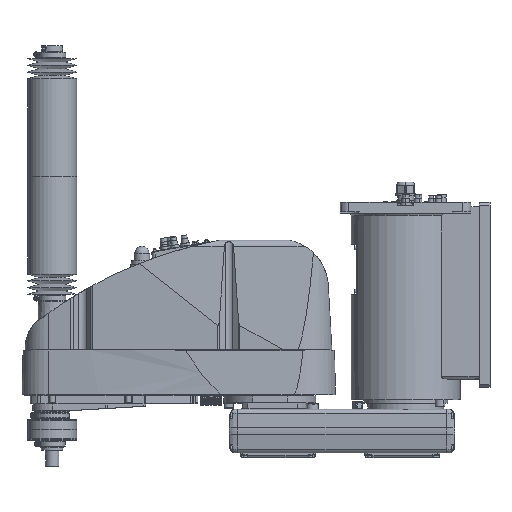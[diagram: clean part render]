
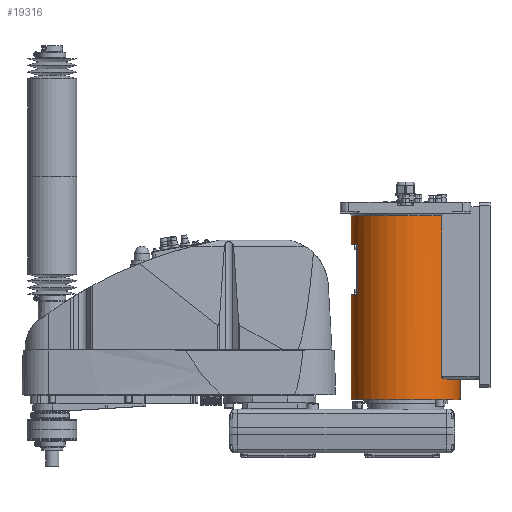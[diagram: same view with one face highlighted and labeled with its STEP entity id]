
A CAD part, top view. The second image highlights one B-rep face of the part: STEP entity #19316.
In plain terms, the highlighted cylindrical face has radius 100 mm (diameter 200 mm), a partial arc.
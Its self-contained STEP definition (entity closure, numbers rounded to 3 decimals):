
#11456 = VERTEX_POINT( '', #33944 );
#11796 = VERTEX_POINT( '', #34318 );
#13084 = EDGE_CURVE( '', #17514, #18980, #35782, .T. );
#13118 = VERTEX_POINT( '', #35818 );
#13156 = VERTEX_POINT( '', #35860 );
#13324 = VERTEX_POINT( '', #36046 );
#13524 = EDGE_CURVE( '', #29128, #17514, #36277, .T. );
#14600 = VERTEX_POINT( '', #37479 );
#17114 = EDGE_CURVE( '', #22464, #26272, #40256, .T. );
#17390 = EDGE_CURVE( '', #18980, #11796, #40568, .T. );
#17514 = VERTEX_POINT( '', #40703 );
#17516 = EDGE_CURVE( '', #26272, #11456, #40705, .T. );
#18448 = EDGE_CURVE( '', #20252, #31028, #41757, .T. );
#18980 = VERTEX_POINT( '', #42343 );
#19290 = VERTEX_POINT( '', #42684 );
#19316 = ADVANCED_FACE( '', ( #42716 ), #42717, .T. );
#20056 = EDGE_CURVE( '', #13118, #25456, #43537, .T. );
#20252 = VERTEX_POINT( '', #43754 );
#20804 = VERTEX_POINT( '', #44359 );
#21668 = EDGE_CURVE( '', #14600, #20252, #45316, .T. );
#22014 = EDGE_CURVE( '', #11456, #13156, #45703, .T. );
#22146 = EDGE_CURVE( '', #31028, #29128, #45849, .T. );
#22464 = VERTEX_POINT( '', #46203 );
#22594 = EDGE_CURVE( '', #11796, #13324, #46341, .T. );
#25456 = VERTEX_POINT( '', #49539 );
#26058 = EDGE_CURVE( '', #20804, #13118, #50211, .T. );
#26272 = VERTEX_POINT( '', #50450 );
#27542 = EDGE_CURVE( '', #13156, #19290, #51846, .T. );
#29032 = EDGE_CURVE( '', #19290, #25456, #53557, .T. );
#29128 = VERTEX_POINT( '', #53662 );
#31028 = VERTEX_POINT( '', #55784 );
#31236 = EDGE_CURVE( '', #20804, #14600, #56011, .T. );
#32726 = EDGE_CURVE( '', #13324, #22464, #57659, .T. );
#33944 = CARTESIAN_POINT( '', ( 75.993, 64., 65. ) );
#34318 = CARTESIAN_POINT( '', ( 100., 64., 0. ) );
#35782 = CIRCLE( '', #61753, 100. );
#35818 = CARTESIAN_POINT( '', ( 0., 363., 100. ) );
#35860 = CARTESIAN_POINT( '', ( 70.42, 64., 71. ) );
#36046 = CARTESIAN_POINT( '', ( 89.303, 64., 45. ) );
#36277 = LINE( '', #62424, #62425 );
#37479 = CARTESIAN_POINT( '', ( -100., 311.3, 0. ) );
#40256 = CIRCLE( '', #68309, 100. );
#40568 = LINE( '', #68776, #68777 );
#40703 = CARTESIAN_POINT( '', ( -100., 25., 0. ) );
#40705 = LINE( '', #68956, #68957 );
#41757 = LINE( '', #70488, #70489 );
#42343 = CARTESIAN_POINT( '', ( 100., 25., 0. ) );
#42684 = CARTESIAN_POINT( '', ( 66.144, 68., 75. ) );
#42716 = FACE_OUTER_BOUND( '', #71892, .T. );
#42717 = CYLINDRICAL_SURFACE( '', #71893, 100. );
#43537 = CIRCLE( '', #73083, 100. );
#43754 = CARTESIAN_POINT( '', ( -88., 311.3, 47.497 ) );
#44359 = CARTESIAN_POINT( '', ( -100., 363., 0. ) );
#45316 = CIRCLE( '', #75659, 100. );
#45703 = CIRCLE( '', #76239, 100. );
#45849 = CIRCLE( '', #76435, 100. );
#46203 = CARTESIAN_POINT( '', ( 89.303, 62., 45. ) );
#46341 = CIRCLE( '', #77150, 100. );
#49539 = CARTESIAN_POINT( '', ( 66.144, 363., 75. ) );
#50211 = CIRCLE( '', #82706, 100. );
#50450 = CARTESIAN_POINT( '', ( 75.993, 62., 65. ) );
#51846 = B_SPLINE_CURVE_WITH_KNOTS( '', 3, ( #85202, #85203, #85204, #85205, #85206, #85207, #85208, #85209, #85210, #85211, #85212, #85213, #85214, #85215, #85216, #85217, #85218, #85219 ), .UNSPECIFIED., .F., .F., ( 4, 2, 2, 2, 2, 2, 2, 2, 4 ), ( 7.241, 8.361, 9.482, 10.602, 11.722, 12.472, 13.222, 13.972, 14.722 ), .UNSPECIFIED. );
#53557 = LINE( '', #87700, #87701 );
#53662 = CARTESIAN_POINT( '', ( -100., 218.3, 0. ) );
#55784 = CARTESIAN_POINT( '', ( -88., 218.3, 47.497 ) );
#56011 = LINE( '', #91360, #91361 );
#57659 = LINE( '', #93744, #93745 );
#61753 = AXIS2_PLACEMENT_3D( '', #97726, #97727, #97728 );
#62424 = CARTESIAN_POINT( '', ( -100., 194., 0. ) );
#62425 = VECTOR( '', #98343, 1. );
#68309 = AXIS2_PLACEMENT_3D( '', #102769, #102770, #102771 );
#68776 = CARTESIAN_POINT( '', ( 100., 194., 0. ) );
#68777 = VECTOR( '', #103128, 1. );
#68956 = CARTESIAN_POINT( '', ( 75.993, 63., 65. ) );
#68957 = VECTOR( '', #103251, 1. );
#70488 = CARTESIAN_POINT( '', ( -88., 264.8, 47.497 ) );
#70489 = VECTOR( '', #104552, 1. );
#71892 = EDGE_LOOP( '', ( #105666, #105667, #105668, #105669, #105670, #105671, #105672, #105673, #105674, #105675, #105676, #105677, #105678, #105679, #105680, #105681 ) );
#71893 = AXIS2_PLACEMENT_3D( '', #105682, #105683, #105684 );
#73083 = AXIS2_PLACEMENT_3D( '', #106603, #106604, #106605 );
#75659 = AXIS2_PLACEMENT_3D( '', #108570, #108571, #108572 );
#76239 = AXIS2_PLACEMENT_3D( '', #109051, #109052, #109053 );
#76435 = AXIS2_PLACEMENT_3D( '', #109219, #109220, #109221 );
#77150 = AXIS2_PLACEMENT_3D( '', #109735, #109736, #109737 );
#82706 = AXIS2_PLACEMENT_3D( '', #114275, #114276, #114277 );
#85202 = CARTESIAN_POINT( '', ( 70.42, 64., 71. ) );
#85203 = CARTESIAN_POINT( '', ( 70.155, 64., 71.263 ) );
#85204 = CARTESIAN_POINT( '', ( 69.877, 64.026, 71.535 ) );
#85205 = CARTESIAN_POINT( '', ( 69.316, 64.139, 72.08 ) );
#85206 = CARTESIAN_POINT( '', ( 69.031, 64.224, 72.352 ) );
#85207 = CARTESIAN_POINT( '', ( 68.475, 64.457, 72.879 ) );
#85208 = CARTESIAN_POINT( '', ( 68.203, 64.604, 73.134 ) );
#85209 = CARTESIAN_POINT( '', ( 67.688, 64.954, 73.61 ) );
#85210 = CARTESIAN_POINT( '', ( 67.446, 65.158, 73.831 ) );
#85211 = CARTESIAN_POINT( '', ( 67.082, 65.542, 74.162 ) );
#85212 = CARTESIAN_POINT( '', ( 66.938, 65.716, 74.292 ) );
#85213 = CARTESIAN_POINT( '', ( 66.674, 66.103, 74.529 ) );
#85214 = CARTESIAN_POINT( '', ( 66.555, 66.315, 74.636 ) );
#85215 = CARTESIAN_POINT( '', ( 66.356, 66.766, 74.812 ) );
#85216 = CARTESIAN_POINT( '', ( 66.277, 67.005, 74.882 ) );
#85217 = CARTESIAN_POINT( '', ( 66.171, 67.497, 74.976 ) );
#85218 = CARTESIAN_POINT( '', ( 66.144, 67.75, 75. ) );
#85219 = CARTESIAN_POINT( '', ( 66.144, 68., 75. ) );
#87700 = CARTESIAN_POINT( '', ( 66.144, 215.5, 75. ) );
#87701 = VECTOR( '', #118301, 1. );
#91360 = CARTESIAN_POINT( '', ( -100., 194., 0. ) );
#91361 = VECTOR( '', #121097, 1. );
#93744 = CARTESIAN_POINT( '', ( 89.303, 63., 45. ) );
#93745 = VECTOR( '', #122867, 1. );
#97726 = CARTESIAN_POINT( '', ( 0., 25., 0. ) );
#97727 = DIRECTION( '', ( 0., 1., 0. ) );
#97728 = DIRECTION( '', ( 1., 0., 0. ) );
#98343 = DIRECTION( '', ( 0., -1., 0. ) );
#102769 = CARTESIAN_POINT( '', ( 0., 62., 0. ) );
#102770 = DIRECTION( '', ( 0., -1., 0. ) );
#102771 = DIRECTION( '', ( 1., 0., 0. ) );
#103128 = DIRECTION( '', ( 0., 1., 0. ) );
#103251 = DIRECTION( '', ( 0., 1., 0. ) );
#104552 = DIRECTION( '', ( 0., -1., 0. ) );
#105666 = ORIENTED_EDGE( '', *, *, #17390, .T. );
#105667 = ORIENTED_EDGE( '', *, *, #22594, .T. );
#105668 = ORIENTED_EDGE( '', *, *, #32726, .T. );
#105669 = ORIENTED_EDGE( '', *, *, #17114, .T. );
#105670 = ORIENTED_EDGE( '', *, *, #17516, .T. );
#105671 = ORIENTED_EDGE( '', *, *, #22014, .T. );
#105672 = ORIENTED_EDGE( '', *, *, #27542, .T. );
#105673 = ORIENTED_EDGE( '', *, *, #29032, .T. );
#105674 = ORIENTED_EDGE( '', *, *, #20056, .F. );
#105675 = ORIENTED_EDGE( '', *, *, #26058, .F. );
#105676 = ORIENTED_EDGE( '', *, *, #31236, .T. );
#105677 = ORIENTED_EDGE( '', *, *, #21668, .T. );
#105678 = ORIENTED_EDGE( '', *, *, #18448, .T. );
#105679 = ORIENTED_EDGE( '', *, *, #22146, .T. );
#105680 = ORIENTED_EDGE( '', *, *, #13524, .T. );
#105681 = ORIENTED_EDGE( '', *, *, #13084, .T. );
#105682 = CARTESIAN_POINT( '', ( 0., 194., 0. ) );
#105683 = DIRECTION( '', ( 0., -1., 0. ) );
#105684 = DIRECTION( '', ( 1., 0., 0. ) );
#106603 = CARTESIAN_POINT( '', ( 0., 363., 0. ) );
#106604 = DIRECTION( '', ( 0., 1., 0. ) );
#106605 = DIRECTION( '', ( 1., 0., 0. ) );
#108570 = CARTESIAN_POINT( '', ( 0., 311.3, 0. ) );
#108571 = DIRECTION( '', ( 0., 1., 0. ) );
#108572 = DIRECTION( '', ( 1., 0., 0. ) );
#109051 = CARTESIAN_POINT( '', ( 0., 64., 0. ) );
#109052 = DIRECTION( '', ( 0., -1., 0. ) );
#109053 = DIRECTION( '', ( 1., 0., 0. ) );
#109219 = CARTESIAN_POINT( '', ( 0., 218.3, 0. ) );
#109220 = DIRECTION( '', ( 0., -1., 0. ) );
#109221 = DIRECTION( '', ( 1., 0., 0. ) );
#109735 = CARTESIAN_POINT( '', ( 0., 64., 0. ) );
#109736 = DIRECTION( '', ( 0., -1., 0. ) );
#109737 = DIRECTION( '', ( 1., 0., 0. ) );
#114275 = CARTESIAN_POINT( '', ( 0., 363., 0. ) );
#114276 = DIRECTION( '', ( 0., 1., 0. ) );
#114277 = DIRECTION( '', ( 1., 0., 0. ) );
#118301 = DIRECTION( '', ( 0., 1., 0. ) );
#121097 = DIRECTION( '', ( 0., -1., 0. ) );
#122867 = DIRECTION( '', ( 0., -1., 0. ) );
